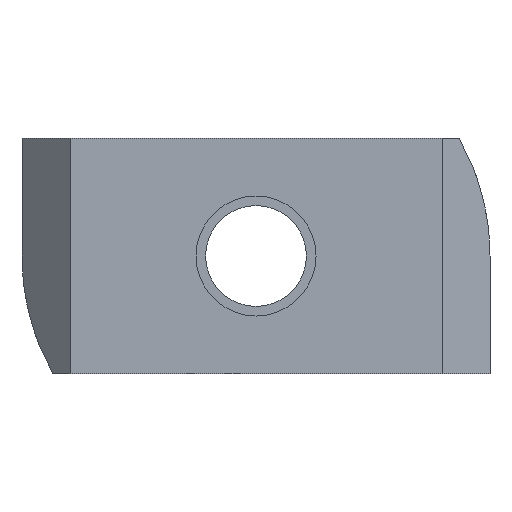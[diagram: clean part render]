
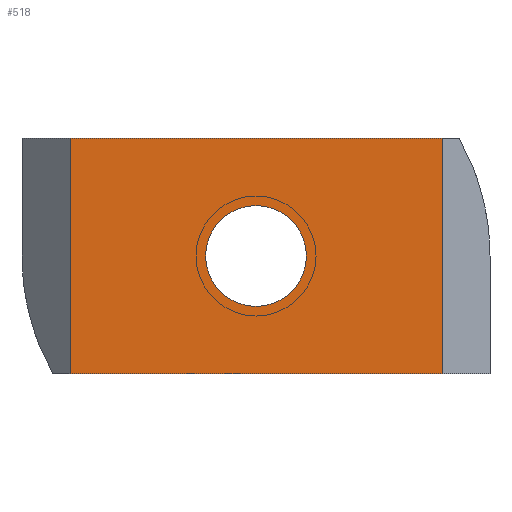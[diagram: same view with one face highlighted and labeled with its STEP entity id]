
A CAD part, front view. The second image highlights one B-rep face of the part: STEP entity #518.
In plain terms, the highlighted planar face has unit normal (0, -1, 0).
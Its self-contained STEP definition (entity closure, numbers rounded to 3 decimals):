
#133=DIRECTION('',(0.,0.,1.));
#134=VECTOR('',#133,9.8);
#135=CARTESIAN_POINT('',(7.75,-5.5,-4.9));
#136=LINE('',#135,#134);
#155=DIRECTION('',(-1.,0.,0.));
#156=VECTOR('',#155,15.5);
#157=CARTESIAN_POINT('',(7.75,-5.5,4.9));
#158=LINE('',#157,#156);
#159=DIRECTION('',(1.,0.,0.));
#160=VECTOR('',#159,15.5);
#161=CARTESIAN_POINT('',(-7.75,-5.5,-4.9));
#162=LINE('',#161,#160);
#163=CARTESIAN_POINT('',(0.,-5.5,0.));
#164=DIRECTION('',(0.,1.,0.));
#165=DIRECTION('',(1.,0.,0.));
#166=AXIS2_PLACEMENT_3D('',#163,#164,#165);
#168=CARTESIAN_POINT('',(0.,-5.5,0.));
#169=DIRECTION('',(0.,1.,0.));
#170=DIRECTION('',(-1.,0.,0.));
#171=AXIS2_PLACEMENT_3D('',#168,#169,#170);
#173=DIRECTION('',(0.,0.,-1.));
#174=VECTOR('',#173,9.8);
#175=CARTESIAN_POINT('',(-7.75,-5.5,4.9));
#176=LINE('',#175,#174);
#265=CARTESIAN_POINT('',(2.1,-5.5,0.));
#266=CARTESIAN_POINT('',(-2.1,-5.5,0.));
#267=VERTEX_POINT('',#265);
#268=VERTEX_POINT('',#266);
#273=CARTESIAN_POINT('',(-7.75,-5.5,4.9));
#274=CARTESIAN_POINT('',(-7.75,-5.5,-4.9));
#275=VERTEX_POINT('',#273);
#276=VERTEX_POINT('',#274);
#283=CARTESIAN_POINT('',(7.75,-5.5,-4.9));
#284=CARTESIAN_POINT('',(7.75,-5.5,4.9));
#285=VERTEX_POINT('',#283);
#286=VERTEX_POINT('',#284);
#500=CARTESIAN_POINT('',(0.,-5.5,0.));
#501=DIRECTION('',(0.,1.,0.));
#502=DIRECTION('',(1.,0.,0.));
#503=AXIS2_PLACEMENT_3D('',#500,#501,#502);
#504=PLANE('',#503);
#505=ORIENTED_EDGE('',*,*,#446,.F.);
#506=ORIENTED_EDGE('',*,*,#491,.F.);
#507=ORIENTED_EDGE('',*,*,#359,.F.);
#509=ORIENTED_EDGE('',*,*,#508,.F.);
#510=EDGE_LOOP('',(#505,#506,#507,#509));
#511=FACE_OUTER_BOUND('',#510,.F.);
#513=ORIENTED_EDGE('',*,*,#512,.F.);
#515=ORIENTED_EDGE('',*,*,#514,.F.);
#516=EDGE_LOOP('',(#513,#515));
#517=FACE_BOUND('',#516,.F.);
#518=ADVANCED_FACE('',(#511,#517),#504,.F.);
#167=CIRCLE('',#166,2.1);
#172=CIRCLE('',#171,2.1);
#359=EDGE_CURVE('',#276,#285,#162,.T.);
#446=EDGE_CURVE('',#286,#275,#158,.T.);
#491=EDGE_CURVE('',#285,#286,#136,.T.);
#508=EDGE_CURVE('',#275,#276,#176,.T.);
#512=EDGE_CURVE('',#267,#268,#167,.T.);
#514=EDGE_CURVE('',#268,#267,#172,.T.);
